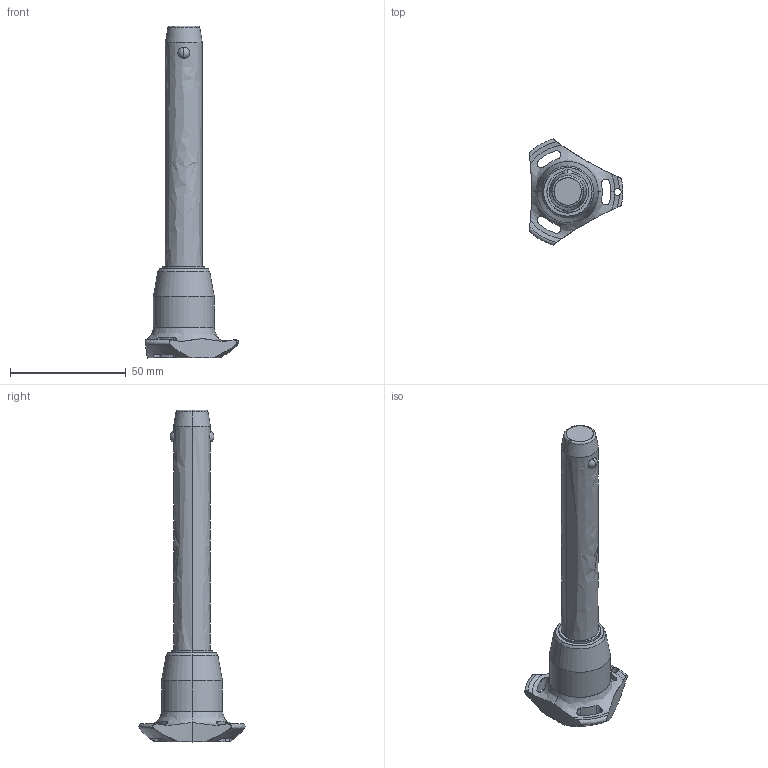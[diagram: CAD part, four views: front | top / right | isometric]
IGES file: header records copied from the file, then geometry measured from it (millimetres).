
Start section: SolidWorks IGES file using analytic representation for surfaces
Global section: file name: C:\Users\ianosborn\Desktop\QR1734_v2\QR1734_v2_20251113_IGES\QR1734.M16-090-S.igs; native system: SolidWorks 2019; preprocessor: SolidWorks 2019; author: IanOsborn; date: 251112.143721; units: millimetre
Bounding box: 40.5 x 45.88 x 143.7 mm (x, y, z)
Surface area: 11182.4 mm2 (no closed solid volume)
Topology: 0 solids, 0 shells, 65 faces, 1379 edges, 1375 vertices
Faces by surface type: revolution 50, bspline 15
